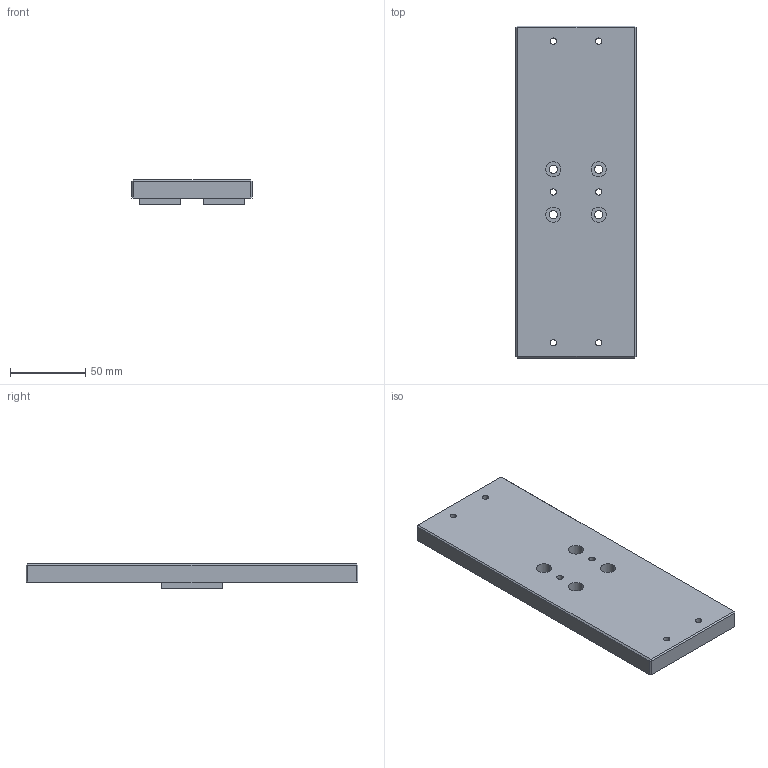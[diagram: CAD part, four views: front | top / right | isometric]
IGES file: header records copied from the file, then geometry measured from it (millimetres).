
Global section: file name: No Iges File Name specified; native system: AutoDesk Inventor R11.0; preprocessor: AutoDesk Inventor Iges Exporter R11.0; author: No Author specified; organization: No Organization specified; date: 20070227.113912; units: millimetre
Bounding box: 80 x 220 x 16 mm (x, y, z)
Volume: 215331.4 mm3; surface area: 45342.1 mm2
Topology: 1 solids, 1 shells, 60 faces, 148 edges, 96 vertices
Faces by surface type: bspline 32, plane 28
